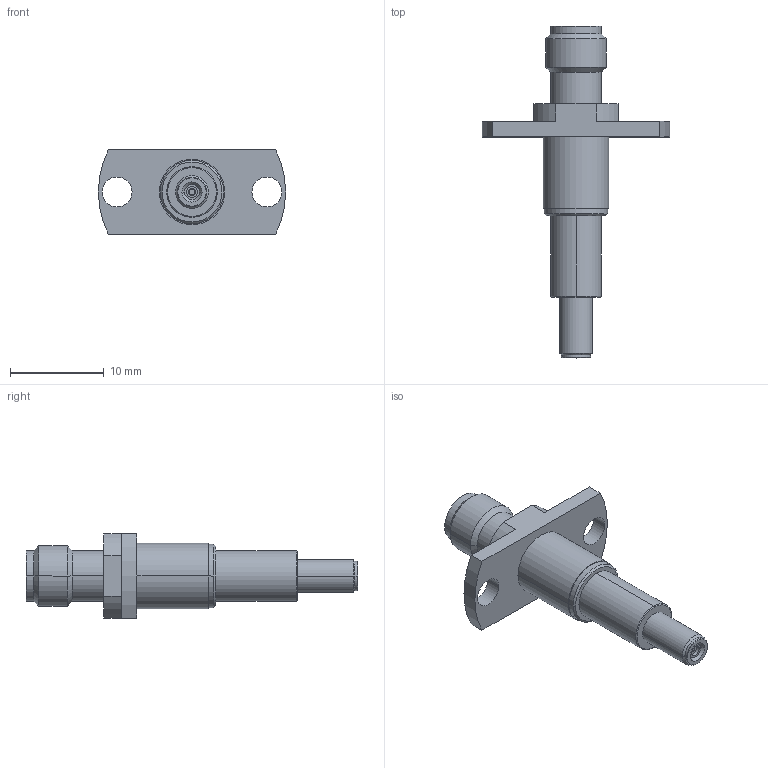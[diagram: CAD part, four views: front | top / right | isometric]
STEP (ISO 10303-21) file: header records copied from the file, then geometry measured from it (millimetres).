
FILE_DESCRIPTION (( 'STEP AP203' ), '1' );
FILE_NAME ('90698 MHF 4 RECEPTACLE HIGH CYCLE SMA ADAPTER.STEP', '2020-05-11T09:56:04', ( '' ), ( '' ), 'SwSTEP 2.0', 'SolidWorks 2017', '' );
FILE_SCHEMA (( 'CONFIG_CONTROL_DESIGN' ));
Length unit declared in the file: millimetre
Products named in the file (1): 90698 MHF 4 RECEPTACLE HIGH CYCLE SMA ADAPTER
Bounding box: 20 x 35.45 x 9 mm (x, y, z)
Volume: 1175.9 mm3; surface area: 1085.9 mm2
Topology: 1 solids, 1 shells, 70 faces, 153 edges, 94 vertices
Faces by surface type: cylinder 35, plane 17, cone 16, torus 2
Entity records: 2014 total; most frequent: DIRECTION 379, CARTESIAN_POINT 318, ORIENTED_EDGE 306, AXIS2_PLACEMENT_3D 155, EDGE_CURVE 153, VERTEX_POINT 94, CIRCLE 84, EDGE_LOOP 83
